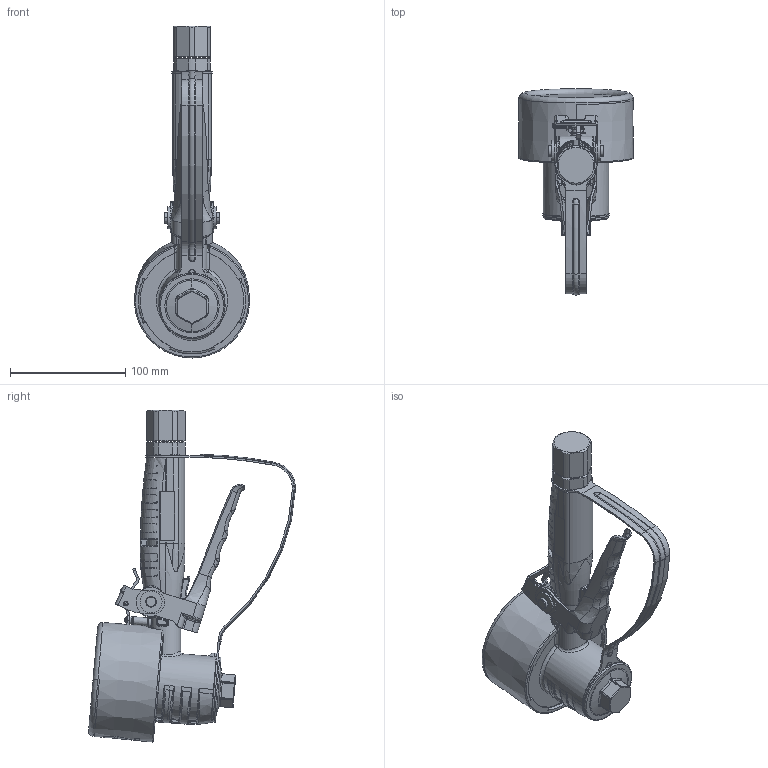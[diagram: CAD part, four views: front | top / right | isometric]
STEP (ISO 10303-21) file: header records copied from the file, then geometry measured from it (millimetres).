
FILE_DESCRIPTION((''),'2;1');
FILE_NAME('24U947-EN-E_PRT','2019-12-31T18:17:20',('qusrh3'),(''),'CREO PARAMETRIC BY PTC INC, 2019030','CREO PARAMETRIC BY PTC INC, 2019030','');
FILE_SCHEMA(('CONFIG_CONTROL_DESIGN'));
Products named in the file (1): 24U947-EN-E_PRT
Bounding box: 99.79 x 179.63 x 288.27 mm (x, y, z)
Surface area: 143447.8 mm2 (no closed solid volume)
Topology: 0 solids, 66 shells, 1263 faces, 3443 edges, 2185 vertices
Faces by surface type: bspline 491, cylinder 345, plane 219, torus 115, cone 53, sphere 33, revolution 5, extrusion 2
Entity records: 72756 total; most frequent: CARTESIAN_POINT 45190, ORIENTED_EDGE 6128, DIRECTION 4819, EDGE_CURVE 3433, VERTEX_POINT 2185, AXIS2_PLACEMENT_3D 1971, B_SPLINE_CURVE_WITH_KNOTS 1364, EDGE_LOOP 1263
